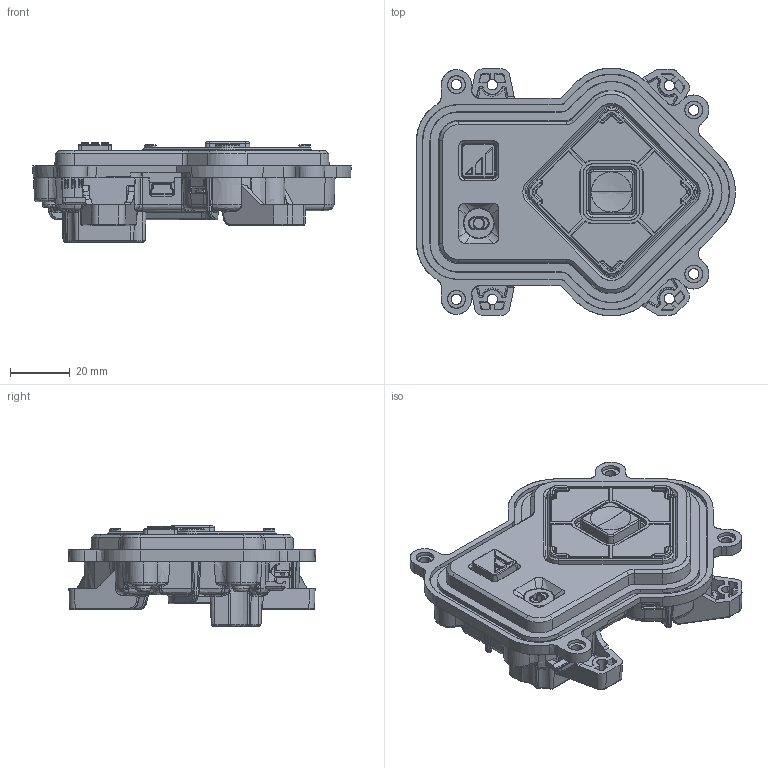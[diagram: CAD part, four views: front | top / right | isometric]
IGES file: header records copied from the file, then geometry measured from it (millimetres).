
Start section: SolidWorks IGES file using analytic representation for surfaces
Global section: file name: I:\Development Projects - Active\KT122 uNav module for NCR\3. Design Schemes,Proposals & Calculations\CAD Data Sent to NCR\150209 UNAV External Surfaces Model\INP728_Issue3_External_Surfaces_Model_for_NCR_150209.IGS; native system: SolidWorks 2013; preprocessor: SolidWorks 2013; author: roberts; date: 150209.123616; units: millimetre
Bounding box: 106.96 x 83.17 x 33.55 mm (x, y, z)
Surface area: 31248.7 mm2 (no closed solid volume)
Topology: 0 solids, 0 shells, 1457 faces, 13386 edges, 13317 vertices
Faces by surface type: bspline 899, revolution 558
